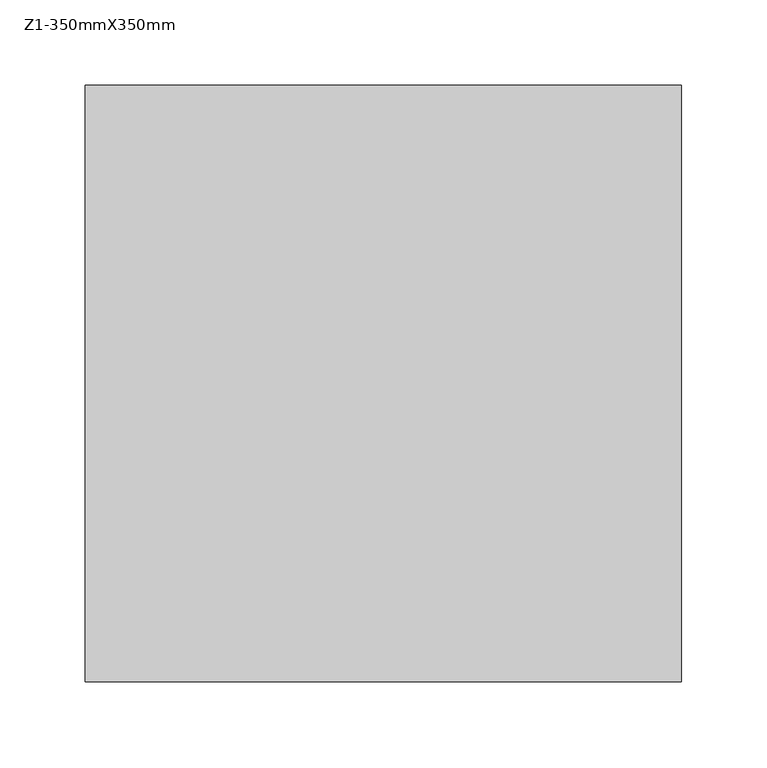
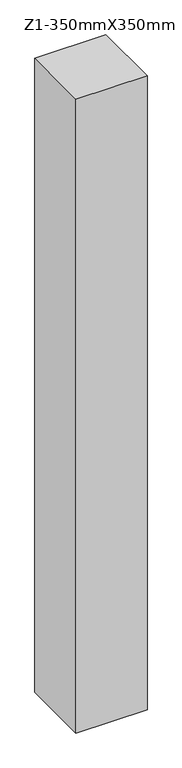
"""IFC4 building model written with IfcOpenShell, lengths in millimetres: column geometry, 混凝土 - 矩形 - 柱 : Z1-350mmX350mm."""

from ifc_helpers import new_model, si_unit, frame, origin, place, context, project, spatial, polyline, outline, extrude, source, transform, mapped, element, save


def z1_350mmx350mm_bc06da4f(model_context):
    return source(origin(), model_context, "Body", "SweptSolid", [
        extrude(outline(polyline([(175.0, 175.0), (175.0, -175.0), (-175.0, -175.0), (-175.0, 175.0), (175.0, 175.0)])), frame((0.0, 0.0, 3900.0), z_axis=(0.0, 0.0, 1.0), x_axis=(1.0, 0.0, 0.0)), (0.0, 0.0, 1.0), 3300.0),
    ])


if __name__ == "__main__":
    model = new_model("IFC4")
    model_context = context("Model", 3, world=origin())
    ifc_project = project(units=[si_unit("LENGTHUNIT", "METRE", prefix="MILLI")], contexts=[model_context])
    site = spatial("IfcSite", under=ifc_project)
    building = spatial("IfcBuilding", under=site)
    placement = place(None, origin())
    z1_350mmx350mm_shape = z1_350mmx350mm_bc06da4f(model_context)
    element("IfcColumn", 1, ObjectType="混凝土 - 矩形 - 柱 : Z1-350mmX350mm", at=placement, inside=building, context=model_context, shape_type="MappedRepresentation", body=[
        mapped(z1_350mmx350mm_shape, transform((0.0, 0.0, 0.0), x_axis=(1.0, 0.0, 0.0), y_axis=(0.0, 1.0, 0.0), z_axis=(0.0, 0.0, 1.0))),
    ])
    save(model, "model.ifc")
